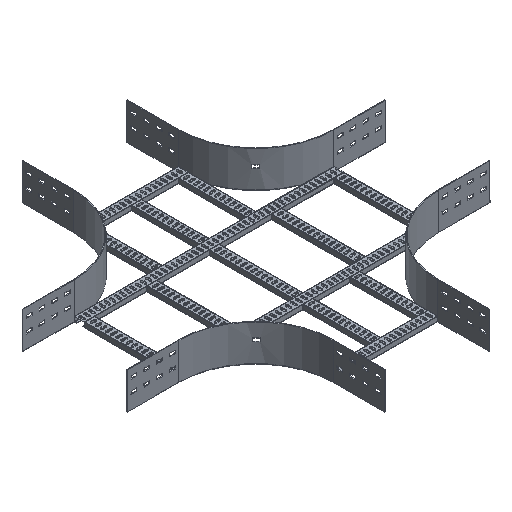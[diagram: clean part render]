
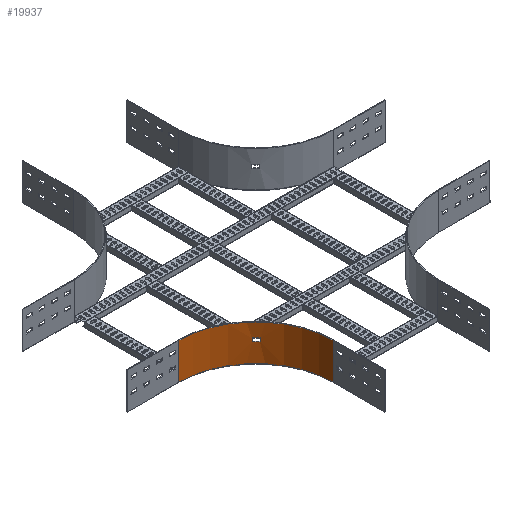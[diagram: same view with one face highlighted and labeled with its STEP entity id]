
A CAD part, isometric view. The second image highlights one B-rep face of the part: STEP entity #19937.
In plain terms, the highlighted cylindrical face has radius 300 mm (diameter 600 mm), a partial arc.
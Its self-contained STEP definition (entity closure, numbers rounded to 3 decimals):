
#523=FACE_BOUND('',#2879,.T.);
#925=CYLINDRICAL_SURFACE('',#20987,300.);
#978=CIRCLE('',#20979,300.);
#983=CIRCLE('',#20986,300.);
#984=CIRCLE('',#20988,300.);
#985=CIRCLE('',#20989,300.);
#1857=FACE_OUTER_BOUND('',#2878,.T.);
#2878=EDGE_LOOP('',(#13476,#13477,#13478,#13479));
#2879=EDGE_LOOP('',(#13480,#13481,#13482,#13483));
#4299=LINE('',#27725,#6391);
#4301=LINE('',#27731,#6393);
#4306=LINE('',#27755,#6398);
#4307=LINE('',#27758,#6399);
#6391=VECTOR('',#22557,304.8);
#6393=VECTOR('',#22561,304.8);
#6398=VECTOR('',#22588,304.8);
#6399=VECTOR('',#22591,304.8);
#8480=VERTEX_POINT('',#27718);
#8483=VERTEX_POINT('',#27723);
#8485=VERTEX_POINT('',#27728);
#8486=VERTEX_POINT('',#27730);
#8492=VERTEX_POINT('',#27751);
#8493=VERTEX_POINT('',#27752);
#8494=VERTEX_POINT('',#27754);
#8495=VERTEX_POINT('',#27756);
#10467=EDGE_CURVE('',#8483,#8480,#4299,.T.);
#10469=EDGE_CURVE('',#8485,#8486,#4301,.T.);
#10472=EDGE_CURVE('',#8480,#8485,#978,.T.);
#10479=EDGE_CURVE('',#8486,#8483,#983,.T.);
#10480=EDGE_CURVE('',#8492,#8493,#984,.T.);
#10481=EDGE_CURVE('',#8493,#8494,#4306,.T.);
#10482=EDGE_CURVE('',#8494,#8495,#985,.T.);
#10483=EDGE_CURVE('',#8495,#8492,#4307,.T.);
#13476=ORIENTED_EDGE('',*,*,#10467,.F.);
#13477=ORIENTED_EDGE('',*,*,#10479,.F.);
#13478=ORIENTED_EDGE('',*,*,#10469,.F.);
#13479=ORIENTED_EDGE('',*,*,#10472,.F.);
#13480=ORIENTED_EDGE('',*,*,#10480,.T.);
#13481=ORIENTED_EDGE('',*,*,#10481,.T.);
#13482=ORIENTED_EDGE('',*,*,#10482,.T.);
#13483=ORIENTED_EDGE('',*,*,#10483,.T.);
#19937=ADVANCED_FACE('',(#1857,#523),#925,.F.);
#20979=AXIS2_PLACEMENT_3D('',#27736,#22566,#22567);
#20986=AXIS2_PLACEMENT_3D('',#27749,#22582,#22583);
#20987=AXIS2_PLACEMENT_3D('',#27750,#22584,#22585);
#20988=AXIS2_PLACEMENT_3D('',#27753,#22586,#22587);
#20989=AXIS2_PLACEMENT_3D('',#27757,#22589,#22590);
#22557=DIRECTION('',(0.,0.,1.));
#22561=DIRECTION('',(0.,0.,-1.));
#22566=DIRECTION('center_axis',(0.,0.,-1.));
#22567=DIRECTION('ref_axis',(0.,1.,0.));
#22582=DIRECTION('center_axis',(0.,0.,1.));
#22583=DIRECTION('ref_axis',(0.,1.,0.));
#22584=DIRECTION('center_axis',(0.,0.,-1.));
#22585=DIRECTION('ref_axis',(0.,1.,0.));
#22586=DIRECTION('center_axis',(0.,0.,-1.));
#22587=DIRECTION('ref_axis',(0.,1.,0.));
#22588=DIRECTION('',(0.,0.,-1.));
#22589=DIRECTION('center_axis',(0.,0.,1.));
#22590=DIRECTION('ref_axis',(0.,1.,0.));
#22591=DIRECTION('',(0.,0.,1.));
#27718=CARTESIAN_POINT('',(-505.5,-205.5,71.));
#27723=CARTESIAN_POINT('',(-505.5,-205.5,-71.));
#27725=CARTESIAN_POINT('',(-505.5,-205.5,-71.));
#27728=CARTESIAN_POINT('',(-205.5,-505.5,71.));
#27730=CARTESIAN_POINT('',(-205.5,-505.5,-71.));
#27731=CARTESIAN_POINT('',(-205.5,-505.5,71.));
#27736=CARTESIAN_POINT('Origin',(-505.5,-505.5,71.));
#27749=CARTESIAN_POINT('Origin',(-505.5,-505.5,-71.));
#27750=CARTESIAN_POINT('Origin',(-505.5,-505.5,0.));
#27751=CARTESIAN_POINT('',(-301.26,-285.759,15.5));
#27752=CARTESIAN_POINT('',(-285.706,-301.318,15.5));
#27753=CARTESIAN_POINT('Origin',(-505.5,-505.5,15.5));
#27754=CARTESIAN_POINT('',(-285.706,-301.318,4.5));
#27755=CARTESIAN_POINT('',(-285.706,-301.318,15.5));
#27756=CARTESIAN_POINT('',(-301.26,-285.759,4.5));
#27757=CARTESIAN_POINT('Origin',(-505.5,-505.5,4.5));
#27758=CARTESIAN_POINT('',(-301.26,-285.759,4.5));
